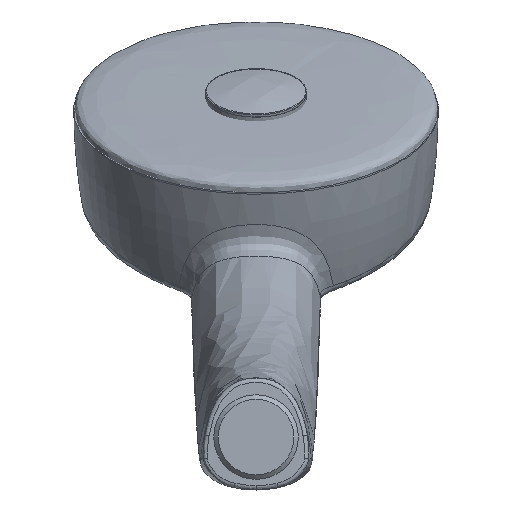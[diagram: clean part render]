
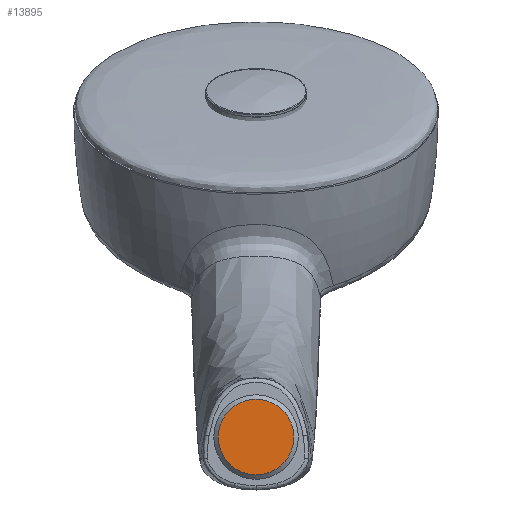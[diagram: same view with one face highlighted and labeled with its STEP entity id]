
A CAD part, front view. The second image highlights one B-rep face of the part: STEP entity #13895.
In plain terms, the highlighted planar face has unit normal (0, -1, 0).
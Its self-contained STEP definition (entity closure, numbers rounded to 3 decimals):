
#690 = DIRECTION ( 'NONE',  ( 0., 0., -1. ) ) ;
#713 = DIRECTION ( 'NONE',  ( 0., -1., 0. ) ) ;
#720 = CARTESIAN_POINT ( 'NONE',  ( -5.467, 0., -0.047 ) ) ;
#856 = DIRECTION ( 'NONE',  ( 0., 0., -1. ) ) ;
#2702 = VERTEX_POINT ( 'NONE', #23910 ) ;
#4499 = FACE_OUTER_BOUND ( 'NONE', #6363, .T. ) ;
#5077 = ORIENTED_EDGE ( 'NONE', *, *, #8895, .T. ) ;
#6363 = EDGE_LOOP ( 'NONE', ( #5077 ) ) ;
#8704 = CARTESIAN_POINT ( 'NONE',  ( -5.467, 0., -0.047 ) ) ;
#8895 = EDGE_CURVE ( 'NONE', #2702, #2702, #15083, .T. ) ;
#11903 = PLANE ( 'NONE',  #20591 ) ;
#12659 = DIRECTION ( 'NONE',  ( 0., -1., 0. ) ) ;
#13895 = ADVANCED_FACE ( 'NONE', ( #4499 ), #11903, .T. ) ;
#15083 = CIRCLE ( 'NONE', #19433, 8.491 ) ;
#19433 = AXIS2_PLACEMENT_3D ( 'NONE', #720, #713, #690 ) ;
#20591 = AXIS2_PLACEMENT_3D ( 'NONE', #8704, #12659, #856 ) ;
#23910 = CARTESIAN_POINT ( 'NONE',  ( -5.467, 0., -8.538 ) ) ;
